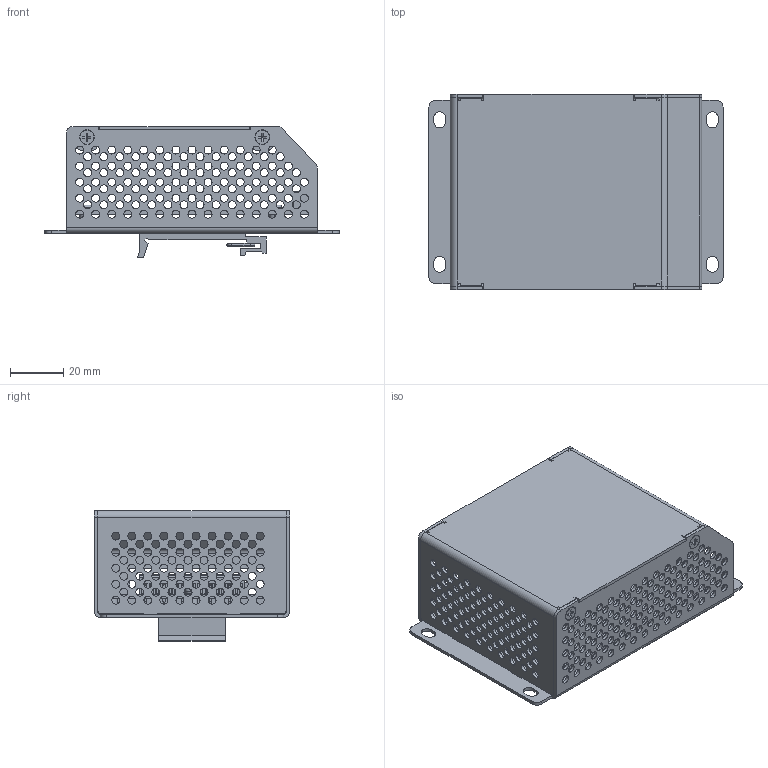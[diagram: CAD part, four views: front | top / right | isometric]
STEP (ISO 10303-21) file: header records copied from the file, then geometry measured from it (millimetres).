
FILE_DESCRIPTION (( 'STEP AP214' ), '1' );
FILE_NAME ('RMD75-110-xxSUW_DR_3D.STEP', '2025-11-13T12:55:00', ( '' ), ( '' ), 'SwSTEP 2.0', 'SolidWorks 2024', '' );
FILE_SCHEMA (( 'AUTOMOTIVE_DESIGN' ));
Length unit declared in the file: millimetre
Products named in the file (1): RMD75-110-xxSUW_DR_3D
Bounding box: 110 x 73 x 49 mm (x, y, z)
Volume: 42431.7 mm3; surface area: 74026.8 mm2
Topology: 20 solids, 20 shells, 2398 faces, 6530 edges, 4236 vertices
Faces by surface type: plane 1239, cylinder 1070, cone 54, torus 35
Entity records: 104761 total; most frequent: CARTESIAN_POINT 14349, DIRECTION 13281, ORIENTED_EDGE 13060, EDGE_CURVE 6530, AXIS2_PLACEMENT_3D 4630, VERTEX_POINT 4236, LINE 4021, VECTOR 4021
